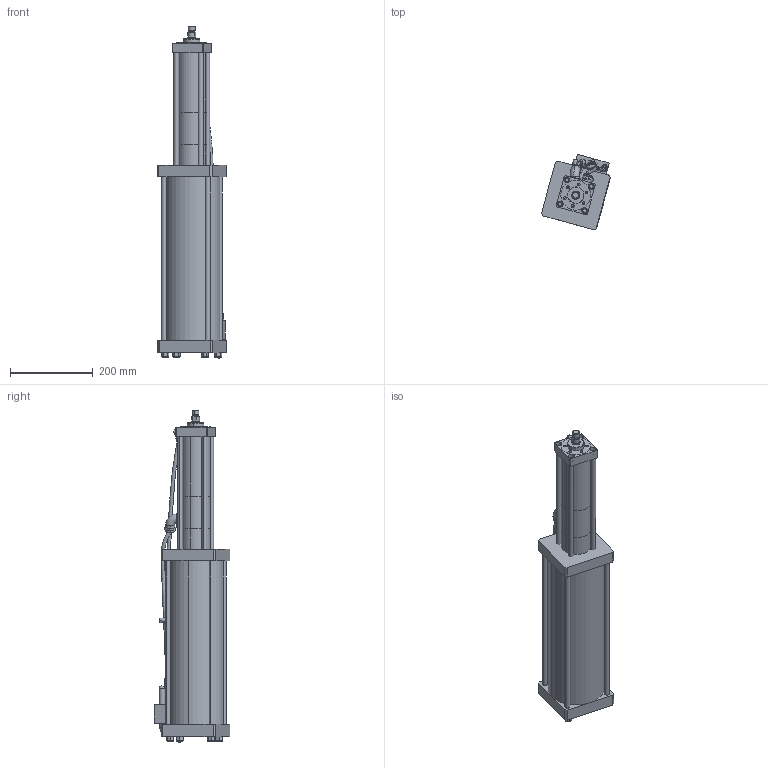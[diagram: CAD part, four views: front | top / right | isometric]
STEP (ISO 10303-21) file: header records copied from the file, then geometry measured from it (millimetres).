
FILE_DESCRIPTION (( 'STEP AP214' ), '1' );
FILE_NAME ('BS02-100-48S.STEP', '2025-09-13T04:33:25', ( 'Ranlm' ), ( '' ), 'SwSTEP 2.0', 'SolidWorks 2022', '' );
FILE_SCHEMA (( 'AUTOMOTIVE_DESIGN' ));
Length unit declared in the file: millimetre
Products named in the file (1): BS02-100-48S
Bounding box: 167.04 x 183.22 x 802.7 mm (x, y, z)
Volume: 8516588.5 mm3; surface area: 596260.4 mm2
Topology: 31 solids, 31 shells, 574 faces, 1252 edges, 771 vertices
Faces by surface type: plane 271, cylinder 185, cone 66, torus 38, bspline 12, sphere 2
Entity records: 23855 total; most frequent: CARTESIAN_POINT 4448, DIRECTION 2838, ORIENTED_EDGE 2448, EDGE_CURVE 1224, AXIS2_PLACEMENT_3D 1095, VERTEX_POINT 769, EDGE_LOOP 651, LINE 648
